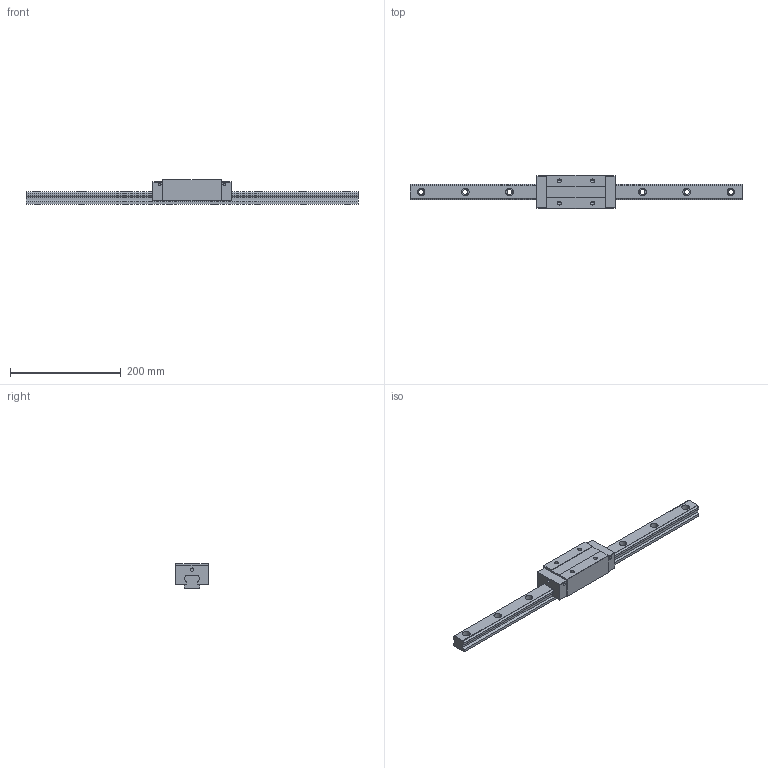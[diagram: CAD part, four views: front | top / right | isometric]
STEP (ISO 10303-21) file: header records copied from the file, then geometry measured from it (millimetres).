
FILE_DESCRIPTION (( 'STEP AP203' ), '1' );
FILE_NAME ('TRH30VE-ZN.STEP', '2024-05-20T07:21:41', ( '' ), ( '' ), 'SwSTEP 2.0', 'SolidWorks 2022', '' );
FILE_SCHEMA (( 'CONFIG_CONTROL_DESIGN' ));
Length unit declared in the file: millimetre
Products named in the file (1): TRH30VE-ZN
Bounding box: 600 x 60 x 45 mm (x, y, z)
Volume: 575041.7 mm3; surface area: 107619.3 mm2
Topology: 2 solids, 2 shells, 186 faces, 488 edges, 316 vertices
Faces by surface type: cylinder 88, plane 82, cone 16
Entity records: 5819 total; most frequent: DIRECTION 1038, CARTESIAN_POINT 983, ORIENTED_EDGE 960, EDGE_CURVE 480, AXIS2_PLACEMENT_3D 371, VERTEX_POINT 316, VECTOR 296, LINE 296
